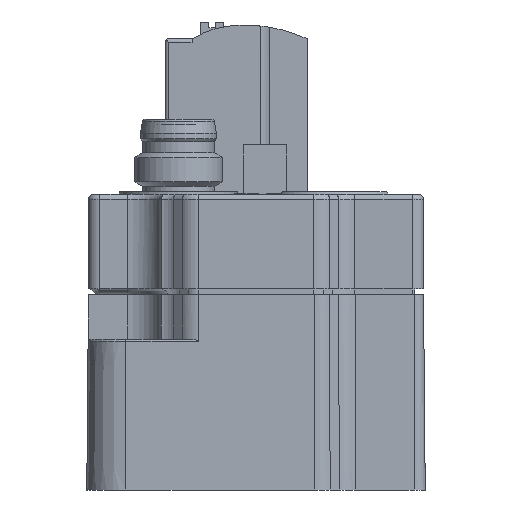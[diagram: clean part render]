
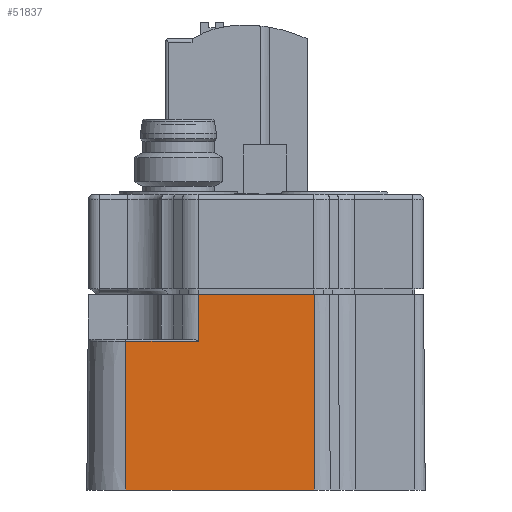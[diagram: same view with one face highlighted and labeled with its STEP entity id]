
A CAD part, front view. The second image highlights one B-rep face of the part: STEP entity #51837.
In plain terms, the highlighted planar face has unit normal (0, -1, 0.009).
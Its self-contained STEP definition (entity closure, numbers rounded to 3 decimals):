
#49947=CARTESIAN_POINT('',(0.579,0.,5.811));
#49948=VERTEX_POINT('',#49947);
#49956=CARTESIAN_POINT('',(10.981,0.,5.811));
#49957=VERTEX_POINT('',#49956);
#49958=CARTESIAN_POINT('',(10.981,0.,5.811));
#49959=DIRECTION('',(-1.0,0.0,0.0));
#49960=VECTOR('',#49959,10.403);
#49961=LINE('',#49958,#49960);
#49962=EDGE_CURVE('',#49957,#49948,#49961,.T.);
#51193=CARTESIAN_POINT('',(-5.903,-0.037,1.613));
#51194=VERTEX_POINT('',#51193);
#51202=CARTESIAN_POINT('',(0.579,-0.037,1.613));
#51203=VERTEX_POINT('',#51202);
#51204=CARTESIAN_POINT('',(-5.903,-0.037,1.613));
#51205=DIRECTION('',(1.0,0.0,0.0));
#51206=VECTOR('',#51205,6.481);
#51207=LINE('',#51204,#51206);
#51208=EDGE_CURVE('',#51194,#51203,#51207,.T.);
#51517=CARTESIAN_POINT('',(0.579,0.,5.811));
#51518=DIRECTION('',(0.0,-0.009,-1.));
#51519=VECTOR('',#51518,4.198);
#51520=LINE('',#51517,#51519);
#51521=EDGE_CURVE('',#49948,#51203,#51520,.T.);
#51793=CARTESIAN_POINT('',(10.981,-0.153,-11.689));
#51794=VERTEX_POINT('',#51793);
#51795=CARTESIAN_POINT('',(10.981,-0.153,-11.689));
#51796=DIRECTION('',(0.,0.009,1.));
#51797=VECTOR('',#51796,17.501);
#51798=LINE('',#51795,#51797);
#51799=EDGE_CURVE('',#51794,#49957,#51798,.T.);
#51812=CARTESIAN_POINT('',(10.981,-0.153,-11.689));
#51813=DIRECTION('',(0.,-1.,0.009));
#51814=DIRECTION('',(1.0,0.,0.));
#51815=AXIS2_PLACEMENT_3D('',#51812,#51813,#51814);
#51816=PLANE('',#51815);
#51817=ORIENTED_EDGE('',*,*,#51208,.F.);
#51818=CARTESIAN_POINT('',(-5.903,-0.153,-11.689));
#51819=VERTEX_POINT('',#51818);
#51820=CARTESIAN_POINT('',(-5.903,-0.153,-11.689));
#51821=DIRECTION('',(0.,0.009,1.));
#51822=VECTOR('',#51821,13.302);
#51823=LINE('',#51820,#51822);
#51824=EDGE_CURVE('',#51819,#51194,#51823,.T.);
#51825=ORIENTED_EDGE('',*,*,#51824,.F.);
#51826=CARTESIAN_POINT('',(10.981,-0.153,-11.689));
#51827=DIRECTION('',(-1.0,0.,0.0));
#51828=VECTOR('',#51827,16.884);
#51829=LINE('',#51826,#51828);
#51830=EDGE_CURVE('',#51794,#51819,#51829,.T.);
#51831=ORIENTED_EDGE('',*,*,#51830,.F.);
#51832=ORIENTED_EDGE('',*,*,#51799,.T.);
#51833=ORIENTED_EDGE('',*,*,#49962,.T.);
#51834=ORIENTED_EDGE('',*,*,#51521,.T.);
#51835=EDGE_LOOP('',(#51817,#51825,#51831,#51832,#51833,#51834));
#51836=FACE_OUTER_BOUND('',#51835,.T.);
#51837=ADVANCED_FACE('',(#51836),#51816,.T.);
